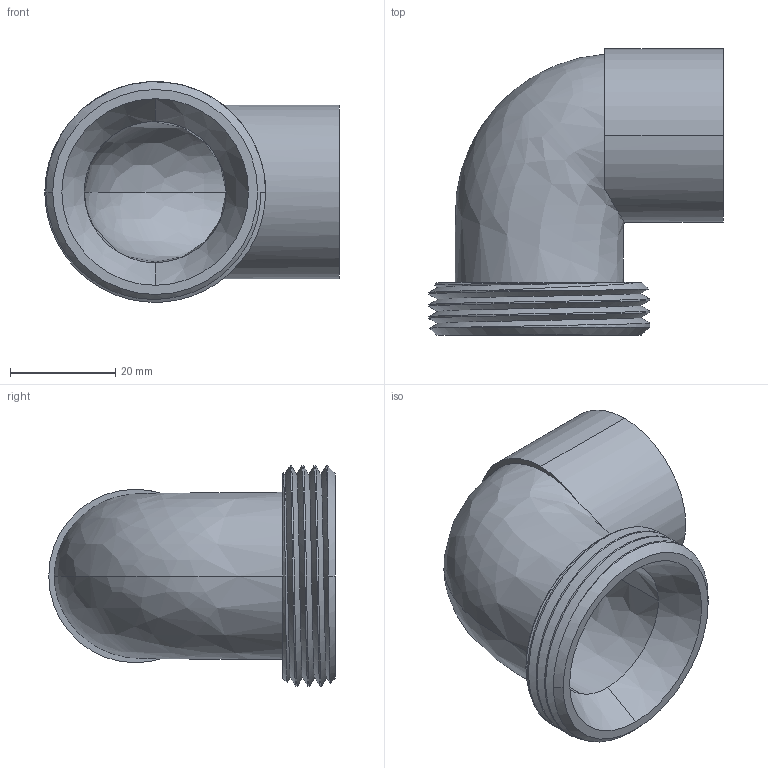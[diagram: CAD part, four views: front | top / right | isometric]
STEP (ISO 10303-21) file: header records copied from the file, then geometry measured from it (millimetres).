
FILE_DESCRIPTION (( 'STEP AP203' ), '1' );
FILE_NAME ('28X114.STEP', '2014-08-26T23:57:55', ( 'Administrators' ), ( 'JUJUMAO' ), 'SwSTEP 2.0', 'SolidWorks 2008', '' );
FILE_SCHEMA (( 'CONFIG_CONTROL_DESIGN' ));
Length unit declared in the file: millimetre
Products named in the file (1): 28X114
Bounding box: 56 x 54.5 x 41.96 mm (x, y, z)
Volume: 18885 mm3; surface area: 14733.8 mm2
Topology: 1 solids, 1 shells, 31 faces, 82 edges, 54 vertices
Faces by surface type: cylinder 11, cone 9, bspline 6, plane 5
Entity records: 2983 total; most frequent: CARTESIAN_POINT 2231, ORIENTED_EDGE 164, DIRECTION 110, EDGE_CURVE 82, VERTEX_POINT 54, AXIS2_PLACEMENT_3D 44, EDGE_LOOP 34, ADVANCED_FACE 31
